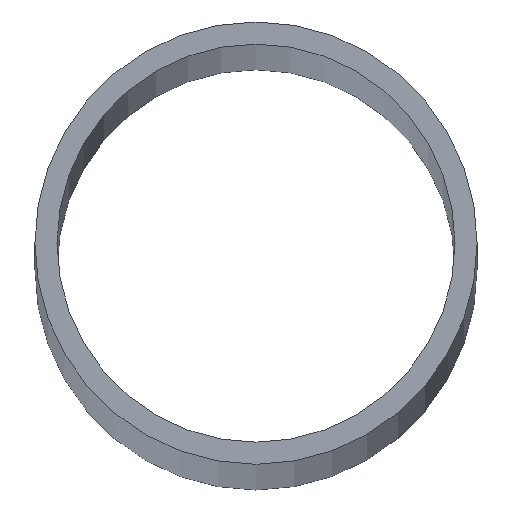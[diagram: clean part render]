
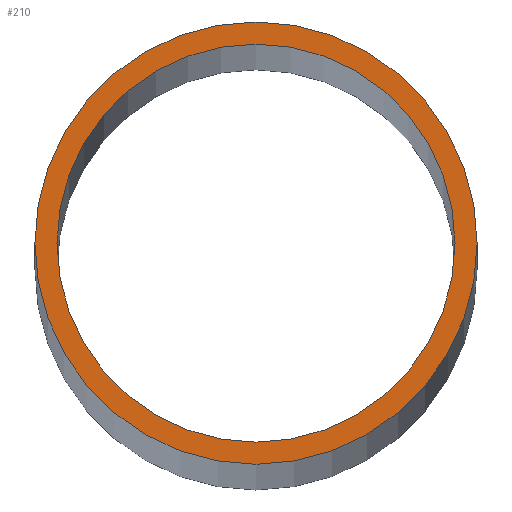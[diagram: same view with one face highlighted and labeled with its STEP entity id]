
A CAD part, top view. The second image highlights one B-rep face of the part: STEP entity #210.
In plain terms, the highlighted planar face has unit normal (0, 0, 1).
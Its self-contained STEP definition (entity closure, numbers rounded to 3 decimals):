
#2 = VERTEX_POINT ( 'NONE', #60 ) ;
#4 = VERTEX_POINT ( 'NONE', #80 ) ;
#5 = DIRECTION ( 'NONE',  ( 1., 0., 0. ) ) ;
#16 = FACE_BOUND ( 'NONE', #25, .T. ) ;
#25 = EDGE_LOOP ( 'NONE', ( #57, #208 ) ) ;
#29 = CIRCLE ( 'NONE', #45, 13.5 ) ;
#35 = DIRECTION ( 'NONE',  ( 0., 0., 1. ) ) ;
#40 = ORIENTED_EDGE ( 'NONE', *, *, #174, .T. ) ;
#45 = AXIS2_PLACEMENT_3D ( 'NONE', #195, #115, #176 ) ;
#46 = DIRECTION ( 'NONE',  ( 1., 0., 0. ) ) ;
#47 = DIRECTION ( 'NONE',  ( 1., 0., 0. ) ) ;
#54 = EDGE_CURVE ( 'NONE', #2, #193, #29, .T. ) ;
#57 = ORIENTED_EDGE ( 'NONE', *, *, #157, .F. ) ;
#60 = CARTESIAN_POINT ( 'NONE',  ( 13.5, 0., 1000. ) ) ;
#62 = PLANE ( 'NONE',  #112 ) ;
#63 = EDGE_CURVE ( 'NONE', #142, #4, #101, .T. ) ;
#65 = DIRECTION ( 'NONE',  ( 0., 0., 1. ) ) ;
#71 = CIRCLE ( 'NONE', #88, 15. ) ;
#77 = ORIENTED_EDGE ( 'NONE', *, *, #63, .T. ) ;
#80 = CARTESIAN_POINT ( 'NONE',  ( -15., 0., 1000. ) ) ;
#81 = CARTESIAN_POINT ( 'NONE',  ( -13.5, 0., 1000. ) ) ;
#84 = CARTESIAN_POINT ( 'NONE',  ( 0., 0., 1000. ) ) ;
#87 = AXIS2_PLACEMENT_3D ( 'NONE', #84, #65, #205 ) ;
#88 = AXIS2_PLACEMENT_3D ( 'NONE', #203, #35, #47 ) ;
#101 = CIRCLE ( 'NONE', #141, 15. ) ;
#106 = DIRECTION ( 'NONE',  ( 0., 0., 1. ) ) ;
#112 = AXIS2_PLACEMENT_3D ( 'NONE', #198, #106, #5 ) ;
#114 = CARTESIAN_POINT ( 'NONE',  ( 0., 0., 1000. ) ) ;
#115 = DIRECTION ( 'NONE',  ( 0., 0., 1. ) ) ;
#127 = FACE_OUTER_BOUND ( 'NONE', #202, .T. ) ;
#128 = DIRECTION ( 'NONE',  ( 0., 0., 1. ) ) ;
#141 = AXIS2_PLACEMENT_3D ( 'NONE', #114, #128, #46 ) ;
#142 = VERTEX_POINT ( 'NONE', #194 ) ;
#157 = EDGE_CURVE ( 'NONE', #193, #2, #212, .T. ) ;
#174 = EDGE_CURVE ( 'NONE', #4, #142, #71, .T. ) ;
#176 = DIRECTION ( 'NONE',  ( 1., 0., 0. ) ) ;
#193 = VERTEX_POINT ( 'NONE', #81 ) ;
#194 = CARTESIAN_POINT ( 'NONE',  ( 15., 0., 1000. ) ) ;
#195 = CARTESIAN_POINT ( 'NONE',  ( 0., 0., 1000. ) ) ;
#198 = CARTESIAN_POINT ( 'NONE',  ( 0., 0., 1000. ) ) ;
#202 = EDGE_LOOP ( 'NONE', ( #40, #77 ) ) ;
#203 = CARTESIAN_POINT ( 'NONE',  ( 0., 0., 1000. ) ) ;
#205 = DIRECTION ( 'NONE',  ( 1., 0., 0. ) ) ;
#208 = ORIENTED_EDGE ( 'NONE', *, *, #54, .F. ) ;
#210 = ADVANCED_FACE ( 'NONE', ( #127, #16 ), #62, .T. ) ;
#212 = CIRCLE ( 'NONE', #87, 13.5 ) ;
